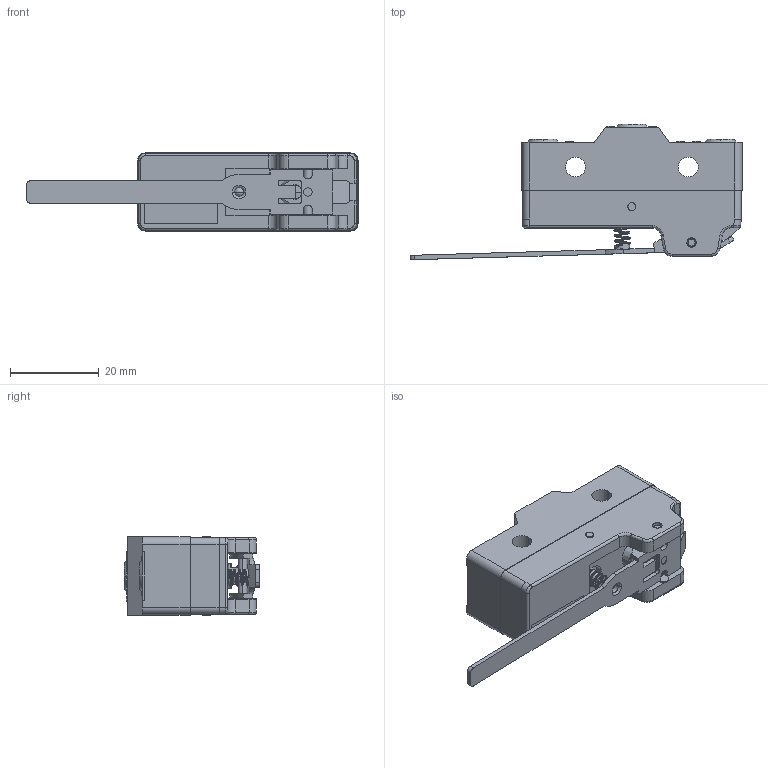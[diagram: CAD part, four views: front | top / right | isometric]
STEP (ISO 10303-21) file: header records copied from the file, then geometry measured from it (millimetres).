
FILE_DESCRIPTION((''),'2;1');
FILE_NAME('PRT0010','2016-08-15T',('ABS'),(''),'PRO/ENGINEER BY PARAMETRIC TECHNOLOGY CORPORATION, 2012360','PRO/ENGINEER BY PARAMETRIC TECHNOLOGY CORPORATION, 2012360','');
FILE_SCHEMA(('CONFIG_CONTROL_DESIGN'));
Length unit declared in the file: millimetre
Products named in the file (1): PRT0010
Bounding box: 74.79 x 30.54 x 17.7 mm (x, y, z)
Volume: 12667.2 mm3; surface area: 10746.3 mm2
Topology: 2 solids, 2 shells, 1135 faces, 3168 edges, 2092 vertices
Faces by surface type: plane 937, cylinder 125, cone 27, torus 26, bspline 14, sphere 6
Entity records: 40173 total; most frequent: CARTESIAN_POINT 10849, ORIENTED_EDGE 6324, DIRECTION 5632, EDGE_CURVE 3162, VECTOR 2728, LINE 2728, VERTEX_POINT 2092, AXIS2_PLACEMENT_3D 1452
